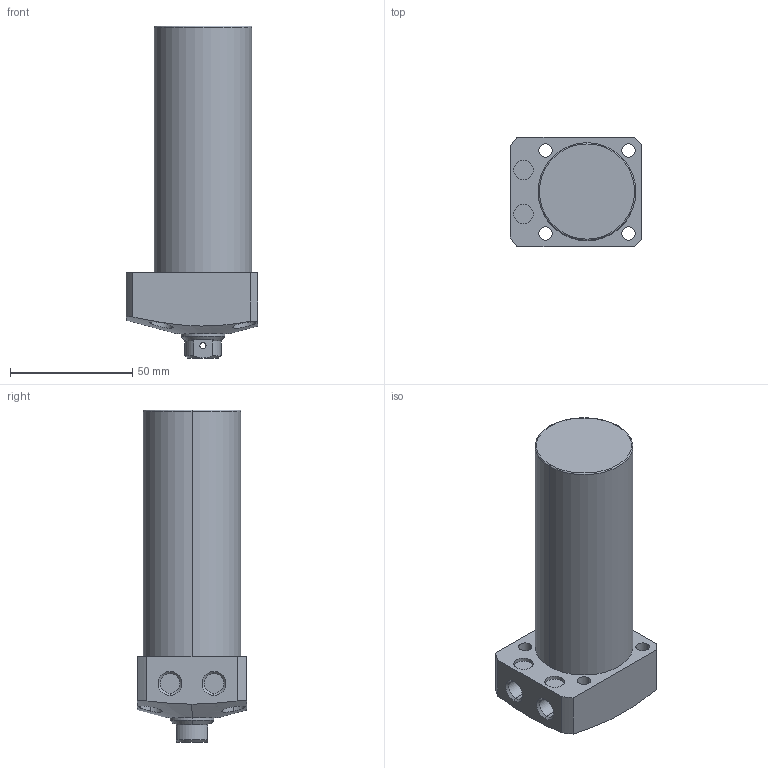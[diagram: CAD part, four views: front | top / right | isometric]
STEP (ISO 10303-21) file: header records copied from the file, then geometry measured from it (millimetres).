
FILE_DESCRIPTION (( 'STEP AP203' ), '1' );
FILE_NAME ('CLL-040CB-075.STEP', '2019-12-21T03:49:46', ( '' ), ( '' ), 'SwSTEP 2.0', 'SolidWorks 2015', '' );
FILE_SCHEMA (( 'CONFIG_CONTROL_DESIGN' ));
Length unit declared in the file: millimetre
Products named in the file (1): CLL-040CB-075
Bounding box: 54 x 45 x 136 mm (x, y, z)
Volume: 177327.7 mm3; surface area: 24825.1 mm2
Topology: 1 solids, 1 shells, 78 faces, 182 edges, 115 vertices
Faces by surface type: cylinder 39, plane 22, cone 15, torus 2
Entity records: 2721 total; most frequent: CARTESIAN_POINT 822, DIRECTION 394, ORIENTED_EDGE 360, EDGE_CURVE 180, AXIS2_PLACEMENT_3D 163, VERTEX_POINT 115, EDGE_LOOP 101, CIRCLE 84
